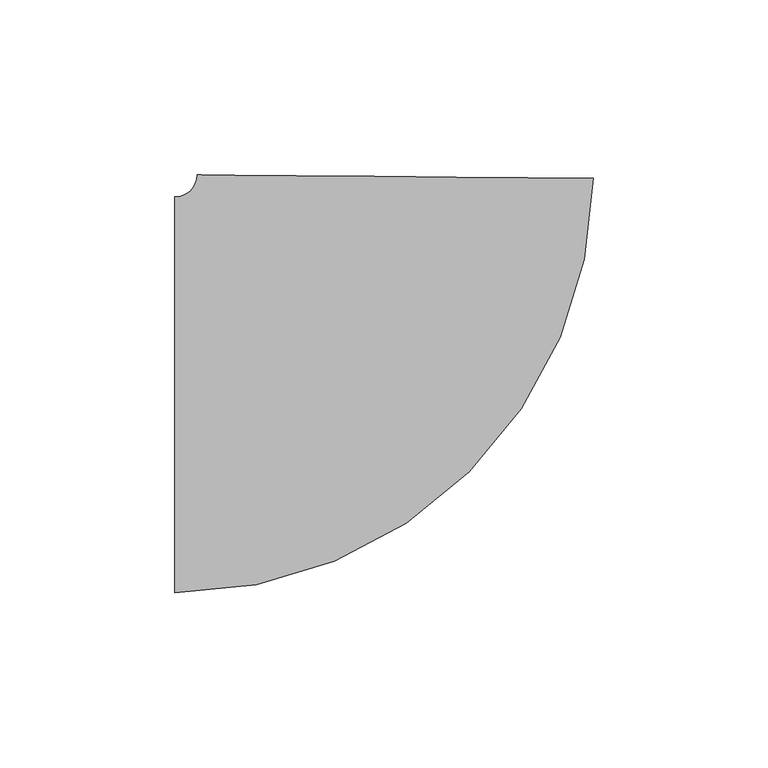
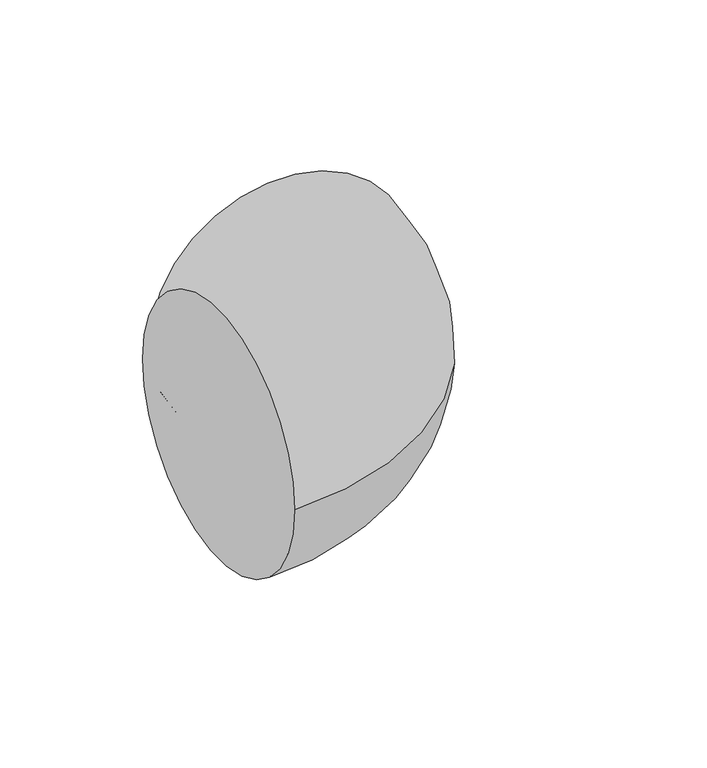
"""IFC4 building model written with IfcOpenShell, lengths in millimetres: pipe fitting geometry, M_Codo - Genérico : Estándar."""

from ifc_helpers import new_model, si_unit, point, frame, origin, place, context, project, spatial, circle_curve, ellipse_curve, trimmed, source, transform, mapped, element, save
from ifc_brep_helpers import plane_surface, revolved_surface, advanced_brep


def pipe_fitting_9a7d8f30(model_context):
    return source(origin(), model_context, "Body", "AdvancedBrep", [
        advanced_brep(
        [(-62.3910693, -56.5875, 0.0), (-62.3910693, 56.5875, 0.0), (57.1293866, 61.8952653, 0.0), (-56.0413107, 62.8821292, 0.0)],
        [
            (0, 1, circle_curve(frame((-62.3910693, 0.0, 0.0), z_axis=(-1.0, 0.0, 0.0), x_axis=(0.0, 1.0, 0.0)), 56.5875)),
            (1, 0, circle_curve(frame((-62.3910693, 0.0, 0.0), z_axis=(-1.0, 0.0, 0.0), x_axis=(0.0, 1.0, 0.0)), 56.5875)),
            (2, 3, circle_curve(frame((0.544038, 62.3886973, 0.0), z_axis=(0.008719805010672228, 0.9999619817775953, 0.0), x_axis=(-0.9999619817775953, 0.008719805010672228, 0.0)), 56.5875)),
            (3, 2, circle_curve(frame((0.544038, 62.3886973, 0.0), z_axis=(0.008719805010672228, 0.9999619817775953, 0.0), x_axis=(-0.9999619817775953, 0.008719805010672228, 0.0)), 56.5875)),
            (3, 1, circle_curve(frame((-62.3910693, 62.9375, 0.0), z_axis=(0.0, 0.0, -1.0), x_axis=(0.0, -1.0, 0.0)), 6.35)),
            (0, 2, circle_curve(frame((-62.3910693, 62.9375, 0.0), z_axis=(0.0, 0.0, 1.0), x_axis=(0.0, -1.0, 0.0)), 119.525)),
        ],
        [
            plane_surface(frame((-62.3910693, 0.0, 0.0), z_axis=(-1.0, 0.0, 0.0), x_axis=(0.0, 0.0, 1.0))),
            plane_surface(frame((0.544038, 62.3886973, 0.0), z_axis=(0.008719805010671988, 0.9999619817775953, 0.0), x_axis=(0.0, 0.0, 1.0))),
            revolved_surface(trimmed(ellipse_curve(frame((-62.3910693, 0.0, 0.0), z_axis=(-1.0, 0.0, 0.0), x_axis=(0.0, 1.0, 0.0)), 56.5875, 56.5875), [point((-62.3910693, -56.5875, 0.0))], [point((-62.3910693, 56.5875, 0.0))], True, "CARTESIAN"), (-62.3910693, 62.9375, 0.0), (0.0, 0.0, 1.0)),
            revolved_surface(trimmed(ellipse_curve(frame((-62.3910693, 0.0, 0.0), z_axis=(-1.0, 0.0, 0.0), x_axis=(0.0, 1.0, 0.0)), 56.5875, 56.5875), [point((-62.3910693, 56.5875, 0.0))], [point((-62.3910693, -56.5875, 0.0))], True, "CARTESIAN"), (-62.3910693, 62.9375, 0.0), (0.0, 0.0, 1.0)),
        ],
        [
            (0, [[1, 2]]),
            (1, [[3, 4]]),
            (2, [[5, -1, 6, -4]]),
            (3, [[-6, -2, -5, -3]]),
        ],
    ),
    ])


if __name__ == "__main__":
    model = new_model("IFC4")
    model_context = context("Model", 3, world=origin())
    ifc_project = project(units=[si_unit("LENGTHUNIT", "METRE", prefix="MILLI")], contexts=[model_context])
    site = spatial("IfcSite", under=ifc_project)
    building = spatial("IfcBuilding", under=site)
    placement = place(None, origin())
    pipe_fitting_shape = pipe_fitting_9a7d8f30(model_context)
    element("IfcPipeFitting", 1, ObjectType="M_Codo - Genérico : Estándar", at=placement, inside=building, context=model_context, shape_type="MappedRepresentation", body=[
        mapped(pipe_fitting_shape, transform((0.0, 0.0, 0.0), x_axis=(1.0, 0.0, 0.0), y_axis=(0.0, 1.0, 0.0), z_axis=(0.0, 0.0, 1.0))),
    ])
    save(model, "model.ifc")
